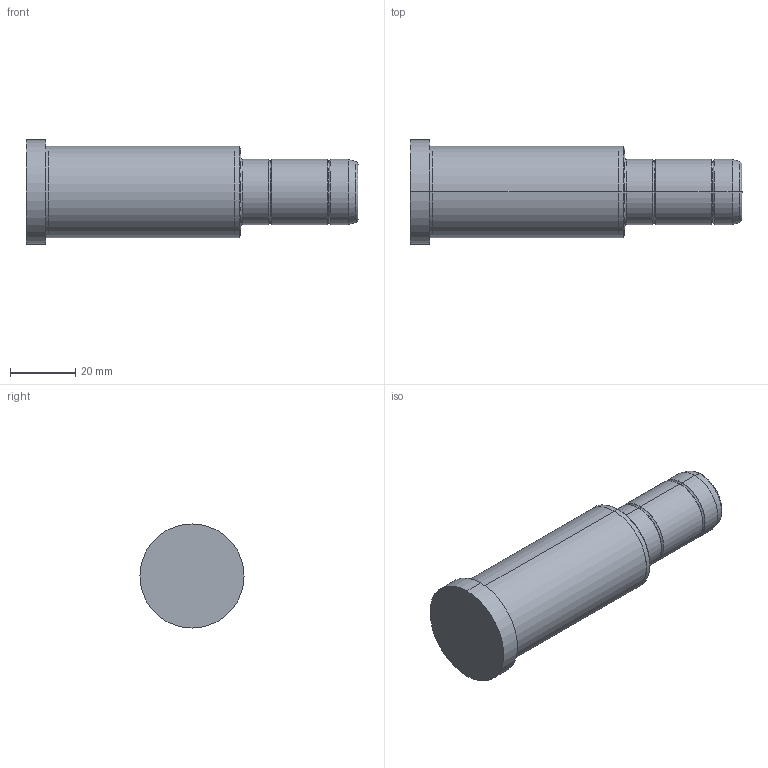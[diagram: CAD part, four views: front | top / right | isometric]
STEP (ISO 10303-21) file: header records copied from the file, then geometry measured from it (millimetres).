
FILE_DESCRIPTION( ( 'STEP AP203' ), '1' );
FILE_NAME( 'C:/Projects/D02 - 20x66x36.step', '2003-01-04T13:53:23', ( ' ' ), ( ' ' ), 'XStep 1.0', ' ', ' ' );
FILE_SCHEMA( ( 'CONFIG_CONTROL_DESIGN' ) );
Length unit declared in the file: metre
Products named in the file (1): 1
Bounding box: 102 x 32 x 32 mm (x, y, z)
Volume: 52994.6 mm3; surface area: 9719.8 mm2
Topology: 1 solids, 1 shells, 36 faces, 70 edges, 40 vertices
Faces by surface type: bspline 18, revolution 18
Entity records: 1127 total; most frequent: CARTESIAN_POINT 417, ORIENTED_EDGE 140, DIRECTION 118, EDGE_CURVE 70, AXIS2_PLACEMENT_3D 41, EDGE_LOOP 40, VERTEX_POINT 40, CIRCLE 40
